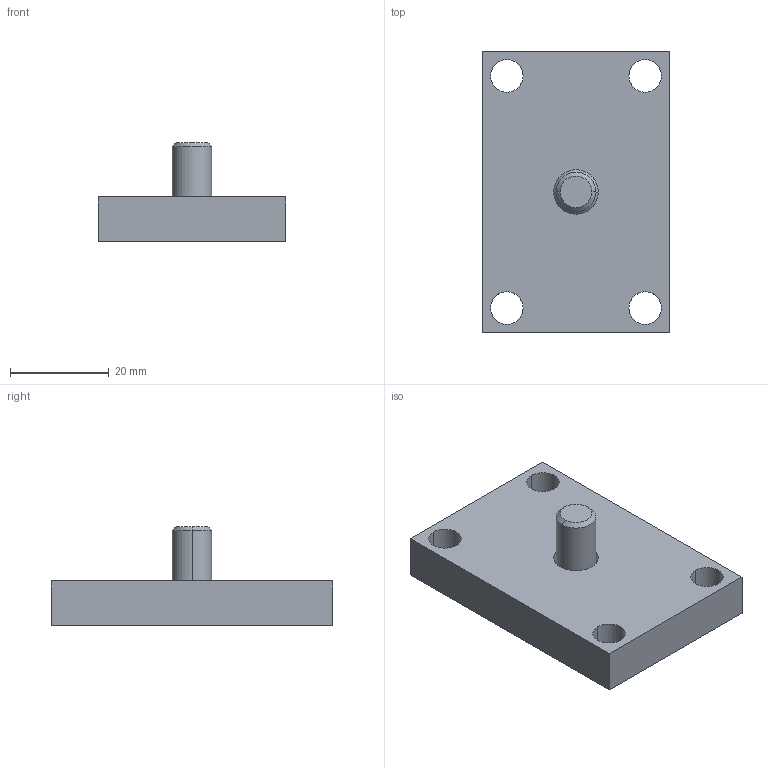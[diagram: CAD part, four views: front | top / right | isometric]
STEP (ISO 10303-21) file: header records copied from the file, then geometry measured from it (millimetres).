
FILE_DESCRIPTION(/* description */ (''),/* implementation_level */ '2;1');
FILE_NAME(/* name */ '3d_bm-38_03392_r00.stp',/* time_stamp */ '2011-01-10T14:17:23+09:00',/* author */ ('MISUMI'),/* organization */ (''),/* preprocessor_version */ 'ST-DEVELOPER v11',/* originating_system */ 'UGS - NX 5.0',/* authorisation */ '');
FILE_SCHEMA (('CONFIG_CONTROL_DESIGN'));
Length unit declared in the file: millimetre
Products named in the file (1): 3d_bm-38_03392_r00
Bounding box: 38 x 57 x 20 mm (x, y, z)
Volume: 18672.7 mm3; surface area: 7506 mm2
Topology: 2 solids, 2 shells, 33 faces, 80 edges, 52 vertices
Faces by surface type: plane 15, cylinder 12, cone 6
Entity records: 1078 total; most frequent: DIRECTION 180, CARTESIAN_POINT 166, ORIENTED_EDGE 160, EDGE_CURVE 80, AXIS2_PLACEMENT_3D 66, VERTEX_POINT 52, LINE 48, VECTOR 48
